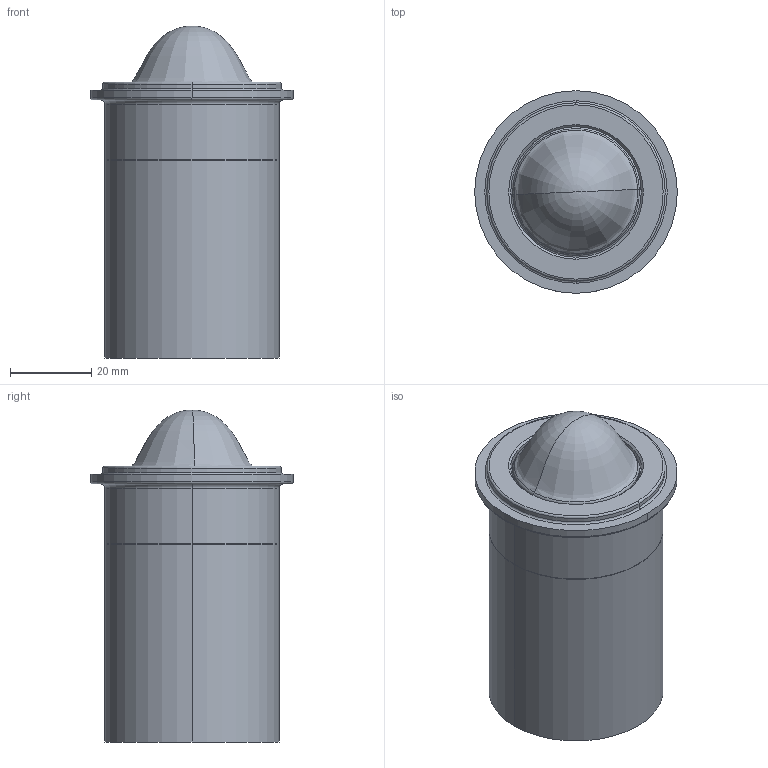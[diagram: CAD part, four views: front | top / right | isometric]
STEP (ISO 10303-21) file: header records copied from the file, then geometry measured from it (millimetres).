
FILE_DESCRIPTION((''),'2;1');
FILE_NAME('INDICE_PRO_PAR16_SW0001','2025-05-15T11:46:02',('elena.baldelli'),(''),'CREO PARAMETRIC BY PTC INC, 2020354','CREO PARAMETRIC BY PTC INC, 2020354','');
FILE_SCHEMA(('CONFIG_CONTROL_DESIGN'));
Length unit declared in the file: millimetre
Products named in the file (1): INDICE_PRO_PAR16_SW0001
Bounding box: 50 x 50 x 81.9 mm (x, y, z)
Surface area: 13844.2 mm2 (no closed solid volume)
Topology: 0 solids, 3 shells, 32 faces, 68 edges, 39 vertices
Faces by surface type: torus 12, cylinder 10, plane 4, cone 4, revolution 2
Entity records: 1027 total; most frequent: CARTESIAN_POINT 276, DIRECTION 176, ORIENTED_EDGE 124, AXIS2_PLACEMENT_3D 80, EDGE_CURVE 66, CIRCLE 50, VERTEX_POINT 39, EDGE_LOOP 35
